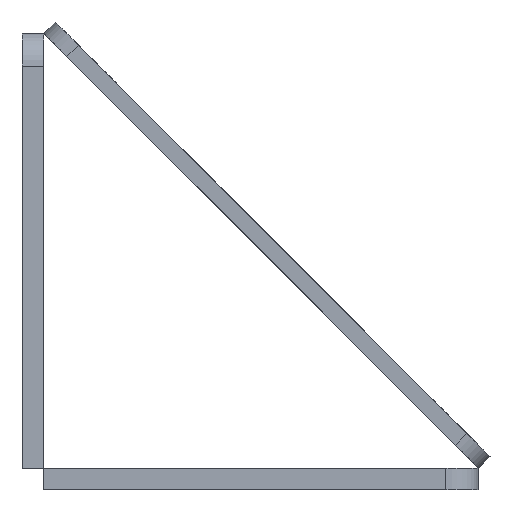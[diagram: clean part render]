
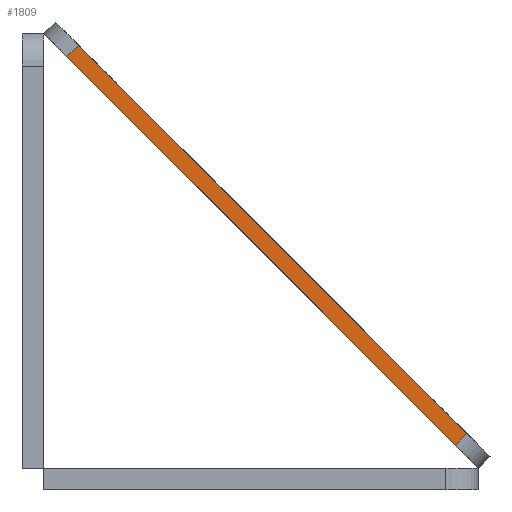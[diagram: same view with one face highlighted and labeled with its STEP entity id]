
A CAD part, left-side view. The second image highlights one B-rep face of the part: STEP entity #1809.
In plain terms, the highlighted planar face has unit normal (-1, 0, 0) as drawn and (0, 1, 0) by its records, which use the part's own axes.
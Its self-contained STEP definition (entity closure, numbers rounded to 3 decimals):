
#65 = VERTEX_POINT ( 'NONE', #1869 ) ;
#96 = DIRECTION ( 'NONE',  ( -1., 0., 0. ) ) ;
#267 = CARTESIAN_POINT ( 'NONE',  ( -56.039, 15.471, 3. ) ) ;
#325 = DIRECTION ( 'NONE',  ( -1., 0., 0. ) ) ;
#344 = VERTEX_POINT ( 'NONE', #1033 ) ;
#359 = ORIENTED_EDGE ( 'NONE', *, *, #1712, .T. ) ;
#362 = VERTEX_POINT ( 'NONE', #891 ) ;
#417 = PLANE ( 'NONE',  #862 ) ;
#434 = EDGE_LOOP ( 'NONE', ( #359, #1886, #1719, #1506 ) ) ;
#552 = EDGE_CURVE ( 'NONE', #344, #362, #924, .T. ) ;
#612 = VECTOR ( 'NONE', #325, 1000. ) ;
#708 = FACE_OUTER_BOUND ( 'NONE', #434, .T. ) ;
#849 = LINE ( 'NONE', #1002, #1200 ) ;
#862 = AXIS2_PLACEMENT_3D ( 'NONE', #267, #1780, #881 ) ;
#877 = VECTOR ( 'NONE', #1109, 1000. ) ;
#881 = DIRECTION ( 'NONE',  ( 0., 0., -1. ) ) ;
#891 = CARTESIAN_POINT ( 'NONE',  ( -56.039, 15.471, 0. ) ) ;
#924 = LINE ( 'NONE', #1567, #877 ) ;
#1002 = CARTESIAN_POINT ( 'NONE',  ( -56.039, 15.471, 0. ) ) ;
#1033 = CARTESIAN_POINT ( 'NONE',  ( -56.039, 15.471, 3. ) ) ;
#1109 = DIRECTION ( 'NONE',  ( 0., 0., -1. ) ) ;
#1110 = LINE ( 'NONE', #1548, #612 ) ;
#1139 = EDGE_CURVE ( 'NONE', #1492, #65, #1844, .T. ) ;
#1200 = VECTOR ( 'NONE', #96, 1000. ) ;
#1263 = CARTESIAN_POINT ( 'NONE',  ( 45.101, 15.471, 3. ) ) ;
#1340 = CARTESIAN_POINT ( 'NONE',  ( 45.101, 15.471, 3. ) ) ;
#1384 = EDGE_CURVE ( 'NONE', #1492, #344, #1110, .T. ) ;
#1492 = VERTEX_POINT ( 'NONE', #1263 ) ;
#1495 = DIRECTION ( 'NONE',  ( 0., 0., -1. ) ) ;
#1499 = VECTOR ( 'NONE', #1495, 1000. ) ;
#1506 = ORIENTED_EDGE ( 'NONE', *, *, #1139, .T. ) ;
#1548 = CARTESIAN_POINT ( 'NONE',  ( -56.039, 15.471, 3. ) ) ;
#1567 = CARTESIAN_POINT ( 'NONE',  ( -56.039, 15.471, 3. ) ) ;
#1712 = EDGE_CURVE ( 'NONE', #65, #362, #849, .T. ) ;
#1719 = ORIENTED_EDGE ( 'NONE', *, *, #1384, .F. ) ;
#1780 = DIRECTION ( 'NONE',  ( 0., -1., 0. ) ) ;
#1809 = ADVANCED_FACE ( 'NONE', ( #708 ), #417, .F. ) ;
#1844 = LINE ( 'NONE', #1340, #1499 ) ;
#1869 = CARTESIAN_POINT ( 'NONE',  ( 45.101, 15.471, 0. ) ) ;
#1886 = ORIENTED_EDGE ( 'NONE', *, *, #552, .F. ) ;
